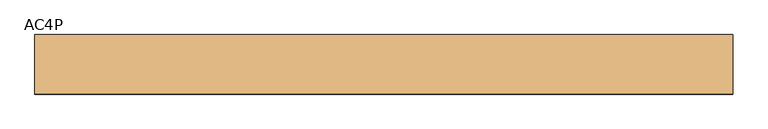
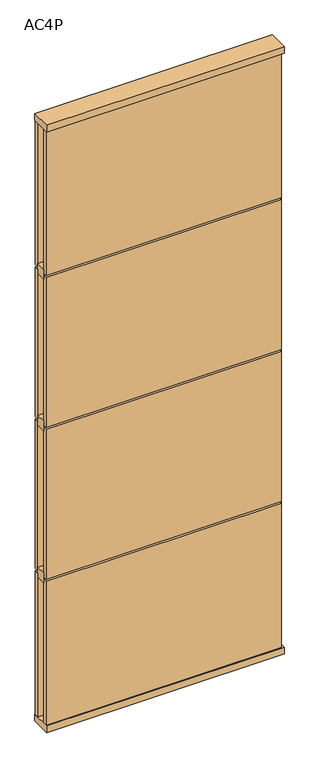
"""IFC4 building model written with IfcOpenShell, lengths in millimetres: door geometry, Mobiliário_Mobiliário de Escritório_Painel Cego - AC4P (Complementar)_Marelli : AC4P."""

from ifc_helpers import new_model, si_unit, frame, origin, origin_with_axes, place, context, project, spatial, polyline, outline, extrude, source, transform, mapped, element, save


def ac4p_e05158a3(model_context):
    return source(origin(), model_context, "Body", "SweptSolid", [
        extrude(outline(polyline([(500.0, 42.5), (500.0, -42.5), (-500.0, -42.5), (-500.0, 42.5), (500.0, 42.5)])), origin_with_axes(), (0.0, 0.0, 1.0), 30.0),
        extrude(outline(polyline([(490.0, 39.5), (490.0, 21.5), (-500.0, 21.5), (-500.0, 39.5), (490.0, 39.5)])), frame((0.0, 0.0, 30.0), z_axis=(0.0, 0.0, 1.0), x_axis=(1.0, 0.0, 0.0)), (0.0, 0.0, 1.0), 640.0),
        extrude(outline(polyline([(490.0, 21.5), (490.0, -21.5), (-500.0, -21.5), (-500.0, 21.5), (490.0, 21.5)])), frame((0.0, 0.0, 653.5), z_axis=(0.0, 0.0, 1.0), x_axis=(1.0, 0.0, 0.0)), (0.0, 0.0, 1.0), 43.0),
        extrude(outline(polyline([(490.0, -39.5), (-500.0, -39.5), (-500.0, -21.5), (490.0, -21.5), (490.0, -39.5)])), frame((0.0, 0.0, 30.0), z_axis=(0.0, 0.0, 1.0), x_axis=(1.0, 0.0, 0.0)), (0.0, 0.0, 1.0), 640.0),
        extrude(outline(polyline([(500.0, 42.5), (500.0, -42.5), (-500.0, -42.5), (-500.0, 42.5), (500.0, 42.5)])), frame((0.0, 0.0, 2670.0), z_axis=(0.0, 0.0, 1.0), x_axis=(1.0, 0.0, 0.0)), (0.0, 0.0, 1.0), 30.0),
        extrude(outline(polyline([(490.0, 39.5), (490.0, 21.5), (-500.0, 21.5), (-500.0, 39.5), (490.0, 39.5)])), frame((0.0, 0.0, 1355.0), z_axis=(0.0, 0.0, 1.0), x_axis=(1.0, 0.0, 0.0)), (0.0, 0.0, 1.0), 665.0),
        extrude(outline(polyline([(490.0, 21.5), (490.0, -21.5), (-500.0, -21.5), (-500.0, 21.5), (490.0, 21.5)])), frame((0.0, 0.0, 2003.5), z_axis=(0.0, 0.0, 1.0), x_axis=(1.0, 0.0, 0.0)), (0.0, 0.0, 1.0), 43.0),
        extrude(outline(polyline([(490.0, 21.5), (490.0, -21.5), (-500.0, -21.5), (-500.0, 21.5), (490.0, 21.5)])), frame((0.0, 0.0, 1328.5), z_axis=(0.0, 0.0, 1.0), x_axis=(1.0, 0.0, 0.0)), (0.0, 0.0, 1.0), 43.0),
        extrude(outline(polyline([(490.0, -39.5), (-500.0, -39.5), (-500.0, -21.5), (490.0, -21.5), (490.0, -39.5)])), frame((0.0, 0.0, 1355.0), z_axis=(0.0, 0.0, 1.0), x_axis=(1.0, 0.0, 0.0)), (0.0, 0.0, 1.0), 665.0),
        extrude(outline(polyline([(500.0, -21.5), (490.0, -21.5), (490.0, 21.5), (500.0, 21.5), (500.0, -21.5)])), frame((0.0, 0.0, 30.0), z_axis=(0.0, 0.0, 1.0), x_axis=(1.0, 0.0, 0.0)), (0.0, 0.0, 1.0), 2640.0),
        extrude(outline(polyline([(490.0, 39.5), (490.0, 21.5), (-500.0, 21.5), (-500.0, 39.5), (490.0, 39.5)])), frame((0.0, 0.0, 2030.0), z_axis=(0.0, 0.0, 1.0), x_axis=(1.0, 0.0, 0.0)), (0.0, 0.0, 1.0), 640.0),
        extrude(outline(polyline([(490.0, -39.5), (-500.0, -39.5), (-500.0, -21.5), (490.0, -21.5), (490.0, -39.5)])), frame((0.0, 0.0, 2030.0), z_axis=(0.0, 0.0, 1.0), x_axis=(1.0, 0.0, 0.0)), (0.0, 0.0, 1.0), 640.0),
        extrude(outline(polyline([(490.0, 39.5), (490.0, 21.5), (-500.0, 21.5), (-500.0, 39.5), (490.0, 39.5)])), frame((0.0, 0.0, 680.0), z_axis=(0.0, 0.0, 1.0), x_axis=(1.0, 0.0, 0.0)), (0.0, 0.0, 1.0), 665.0),
        extrude(outline(polyline([(490.0, -39.5), (-500.0, -39.5), (-500.0, -21.5), (490.0, -21.5), (490.0, -39.5)])), frame((0.0, 0.0, 680.0), z_axis=(0.0, 0.0, 1.0), x_axis=(1.0, 0.0, 0.0)), (0.0, 0.0, 1.0), 665.0),
    ])


if __name__ == "__main__":
    model = new_model("IFC4")
    model_context = context("Model", 3, world=origin())
    ifc_project = project(units=[si_unit("LENGTHUNIT", "METRE", prefix="MILLI")], contexts=[model_context])
    site = spatial("IfcSite", under=ifc_project)
    building = spatial("IfcBuilding", under=site)
    placement = place(None, origin())
    ac4p_shape = ac4p_e05158a3(model_context)
    element("IfcDoor", 1, ObjectType="Mobiliário_Mobiliário de Escritório_Painel Cego - AC4P (Complementar)_Marelli : AC4P", at=placement, inside=building, context=model_context, shape_type="MappedRepresentation", body=[
        mapped(ac4p_shape, transform((0.0, 0.0, 0.0), x_axis=(1.0, 0.0, 0.0), y_axis=(0.0, 1.0, 0.0), z_axis=(0.0, 0.0, 1.0))),
    ])
    save(model, "model.ifc")
